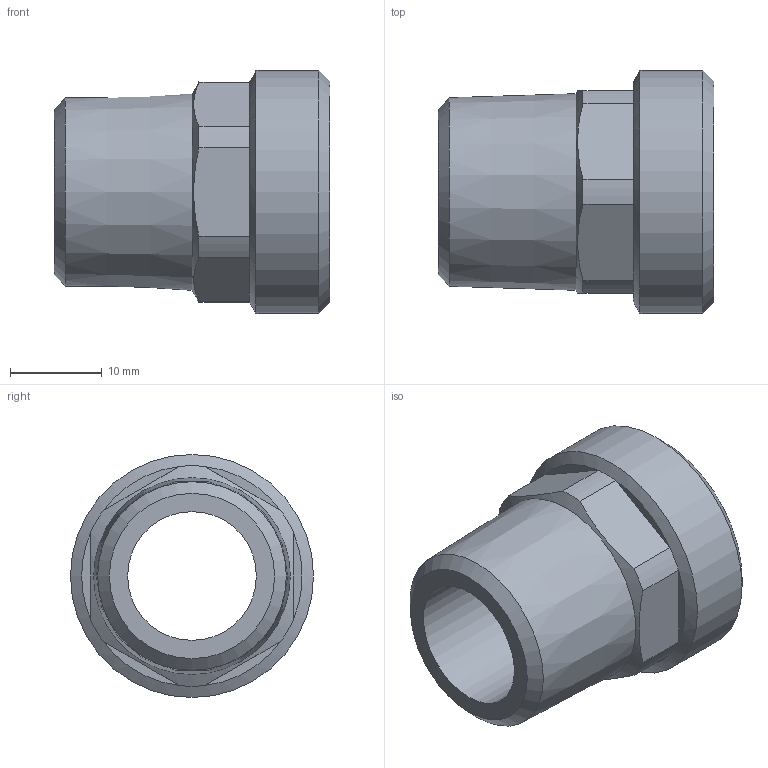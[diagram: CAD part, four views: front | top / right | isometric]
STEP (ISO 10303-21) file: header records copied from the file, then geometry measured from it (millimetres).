
FILE_DESCRIPTION(/* description */ (''),/* implementation_level */ '2;1');
FILE_NAME(/* name */ '\\LG50011\SANHA_Legnica\Engineering\Public\RYSUNKI\SANHA POLSKA\4376G\inventor\14376G_12-34(2).stp',/* time_stamp */ '2018-02-12T08:35:57+01:00',/* author */ ('gomulka'),/* organization */ (''),/* preprocessor_version */ 'ST-DEVELOPER v15.6',/* originating_system */ 'Autodesk Inventor 2015',/* authorisation */ '');
FILE_SCHEMA (('AUTOMOTIVE_DESIGN { 1 0 10303 214 3 1 1 }'));
Length unit declared in the file: millimetre
Products named in the file (1): 14376G_12-34(2)
Bounding box: 30 x 26.44 x 26.44 mm (x, y, z)
Volume: 7192.1 mm3; surface area: 4134.7 mm2
Topology: 1 solids, 1 shells, 29 faces, 63 edges, 36 vertices
Faces by surface type: plane 14, cylinder 9, cone 6
Full cylindrical faces by diameter (mm): 14 x1, 16 x1, 26.441 x1
Entity records: 740 total; most frequent: DIRECTION 134, CARTESIAN_POINT 128, ORIENTED_EDGE 104, AXIS2_PLACEMENT_3D 58, EDGE_CURVE 52, EDGE_LOOP 40, VERTEX_POINT 34, FACE_OUTER_BOUND 29
